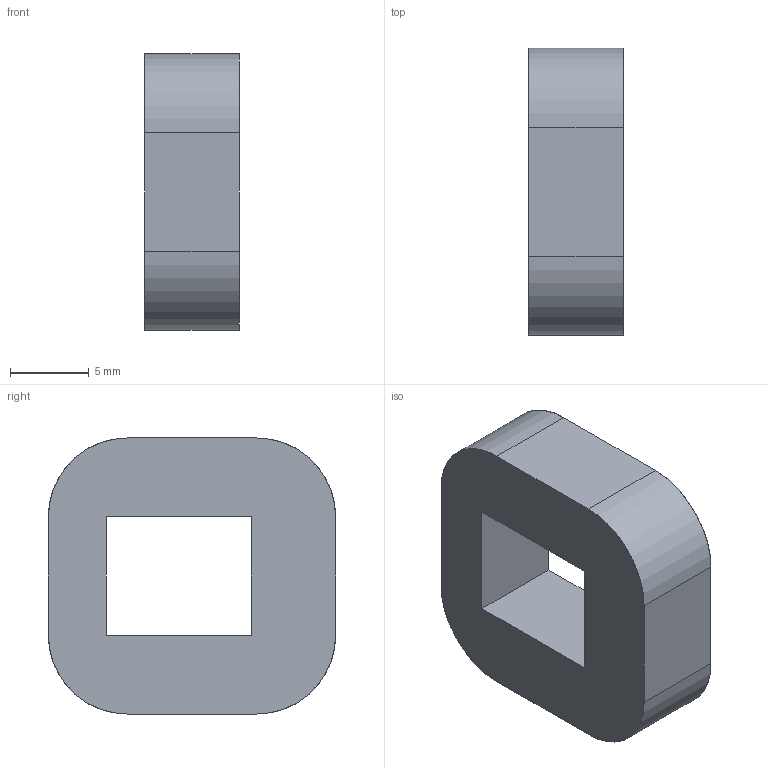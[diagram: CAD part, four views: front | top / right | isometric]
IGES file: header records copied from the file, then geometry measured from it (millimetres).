
Start section: SolidWorks IGES file using analytic representation for surfaces
Global section: file name: C:\Documents and Settings\Administrator\Desktop\coreXY\CoreXY EVT1\20110623\YankerTensioner_TENSIONDONUT3_rev1.IGS; native system: SolidWorks 2009; preprocessor: SolidWorks 2009; author: Administrator; date: 120423.190358; units: millimetre
Bounding box: 6 x 18.21 x 17.5 mm (x, y, z)
Surface area: 1033.7 mm2 (no closed solid volume)
Topology: 0 solids, 0 shells, 14 faces, 128 edges, 128 vertices
Faces by surface type: bspline 10, revolution 4
